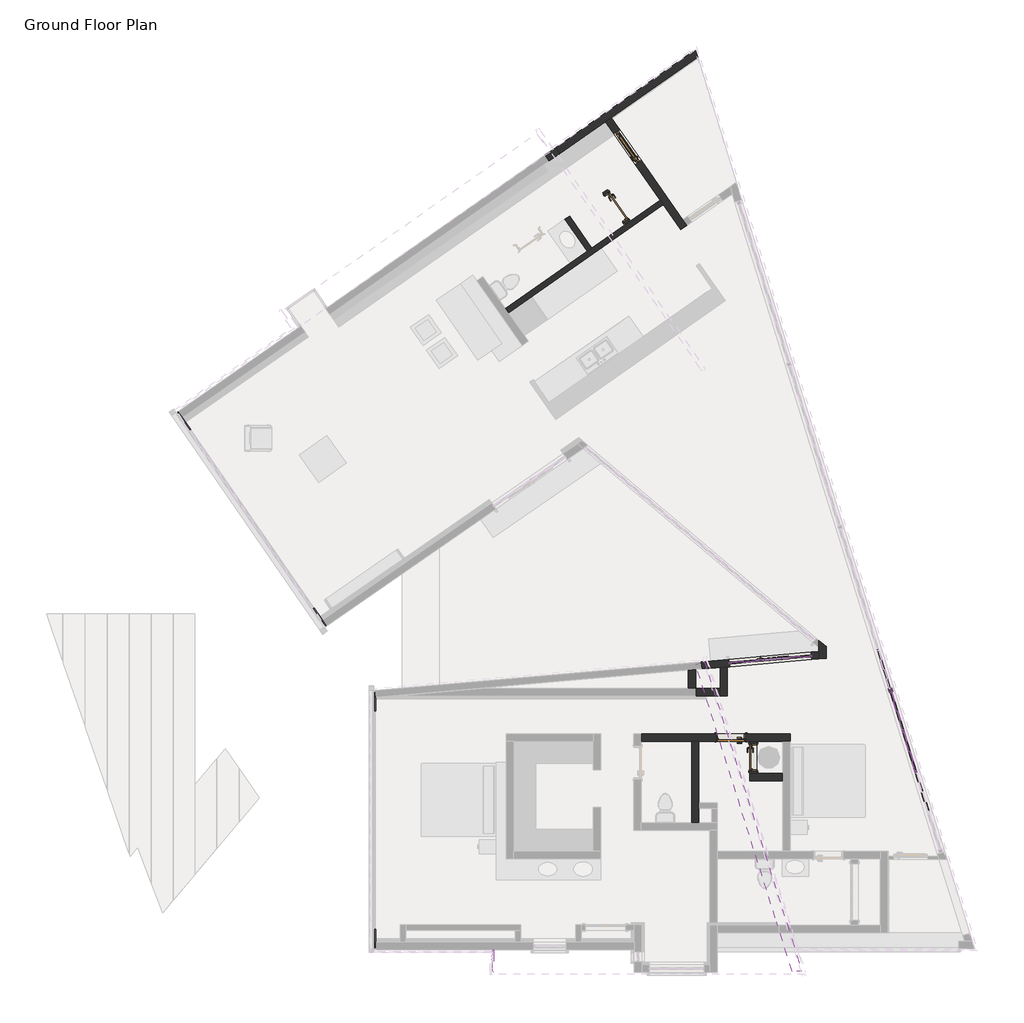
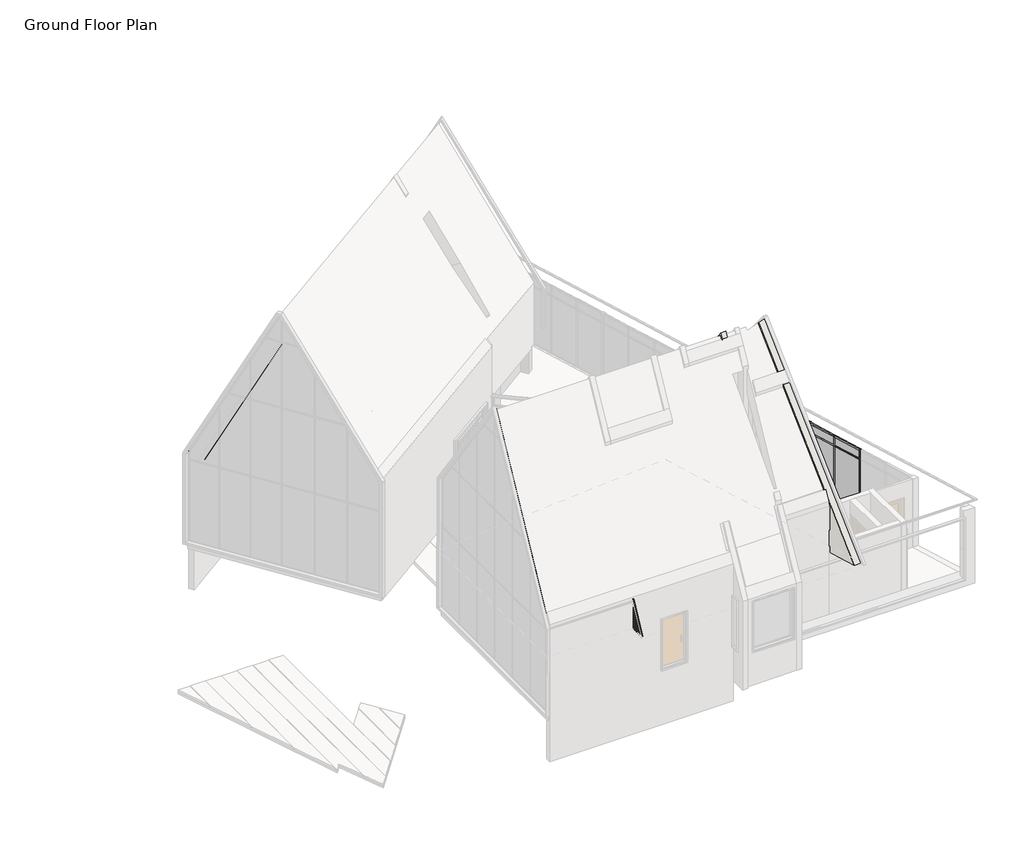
# One storey, part 3 of 5: 33 members, 17 walls, 12 plates, 5 doors.
"""IFC4 building model written with IfcOpenShell, lengths in millimetres."""

from ifc_helpers import new_model, si_unit, frame, origin, place, context, project, spatial, polyline, outline, extrude, faceted_brep, transform, mapped, element, save
from components import door_750mm_wide_door_e546be3d, doors_intsgl_750mm_7c3ae30e, doors_intsgl_810x2110mm_e568eb51, doors_intsgl_910x2110mm_8bc69504, m_door_curtain_wall_single_glass_m_door_curtain_wall_single_c3f88e89, rectangular_mullion_50x150mm_d6dec429, rectangular_mullion_50x150mm_72788f02, rectangular_mullion_50x150mm_baa92764, rectangular_mullion_50x150mm_42de14cf, rectangular_mullion_50x150mm_a37308e9, rectangular_mullion_50x150mm_01eea1bb, rectangular_mullion_50x150mm_2a97b9df, rectangular_mullion_50x150mm_ea022c74, rectangular_mullion_50x150mm_58209b6d, rectangular_mullion_50x150mm_e022757b, rectangular_mullion_50x150mm_c4750289, rectangular_mullion_50x150mm_8a00ccf8, rectangular_mullion_50x150mm_a8f8c755, rectangular_mullion_50x150mm_bbfc3f09, rectangular_mullion_50x150mm_005697f4, rectangular_mullion_50x150mm_f9c068ff, rectangular_mullion_50x150mm_facade_da269e3a, rectangular_mullion_50x150mm_facade_010fe28e, curtain_panel_curtain_panel_dfcd8e99, curtain_panel1_curtain_panel_2af1ea26, system_panel_glazed_c5d443fe, system_panel_glazed_77f98377, system_panel_glazed_fb9e9887, system_panel_glazed_1f7e3502, system_panel_glazed_3_e0a3ef8b, system_panel_glazed_3_5270101a, system_panel_glazed_3_bc7211fb, system_panel_opaque_e4a811f1, system_panel_opaque_66f26a5c, wall_wall_63b974ed, walls_1_walls_1_007ceb3c

model = new_model("IFC4")

# Units and contexts
model_context = context("Model", 3, world=origin())
ifc_project = project(units=[si_unit("LENGTHUNIT", "METRE", prefix="MILLI")], contexts=[model_context])

# Site, building, storey
site = spatial("IfcSite", under=ifc_project)
building = spatial("IfcBuilding", under=site)
storey = spatial("IfcBuildingStorey", under=building, Name="Ground Floor Plan", Elevation=0.0)

# Doors
placement = place(None, origin())
door_750mm_wide_door_shape = door_750mm_wide_door_e546be3d(model_context)
element("IfcDoor", 1, ObjectType="Doors_GEALAN_S9000_Front-Door : 750mm wide door", at=placement, inside=storey, context=model_context, shape_type="MappedRepresentation", body=[
    mapped(door_750mm_wide_door_shape, transform((-749.949294, 17445.1438074, 150.0), x_axis=(0.573576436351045, -0.8191520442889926, 0.0), y_axis=(0.8191520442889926, 0.573576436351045, 0.0), z_axis=(0.0, 0.0, 1.0))),
])
doors_intsgl_750mm_shape = doors_intsgl_750mm_7c3ae30e(model_context)
element("IfcDoor", 2, ObjectType="Doors_IntSgl : 750mm", at=placement, inside=storey, context=model_context, shape_type="MappedRepresentation", body=[
    mapped(doors_intsgl_750mm_shape, transform((2665.0455326, 877.8022092, 142.0), x_axis=(0.0, -1.0, 0.0), y_axis=(1.0, 0.0, 0.0), z_axis=(0.0, 0.0, 1.0))),
])
doors_intsgl_810x2110mm_shape = doors_intsgl_810x2110mm_e568eb51(model_context)
element("IfcDoor", 3, ObjectType="Doors_IntSgl : 810x2110mm", at=placement, inside=storey, context=model_context, shape_type="MappedRepresentation", body=[
    mapped(doors_intsgl_810x2110mm_shape, transform((2060.0455326, 1417.8022092, 142.0), x_axis=(-1.0, 0.0, 0.0), y_axis=(0.0, -1.0, 0.0), z_axis=(0.0, 0.0, 1.0))),
])
doors_intsgl_910x2110mm_shape = doors_intsgl_910x2110mm_8bc69504(model_context)
element("IfcDoor", 4, ObjectType="Doors_IntSgl : 910x2110mm", at=placement, inside=storey, context=model_context, shape_type="MappedRepresentation", body=[
    mapped(doors_intsgl_910x2110mm_shape, transform((-1050.6456876, 15815.2098093, -8.0), x_axis=(0.5735764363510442, -0.8191520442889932, 0.0), y_axis=(0.8191520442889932, 0.5735764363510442, 0.0), z_axis=(0.0, 0.0, 1.0))),
])
m_door_curtain_wall_single_glass_m_door_curtain_wall_single_shape = m_door_curtain_wall_single_glass_m_door_curtain_wall_single_c3f88e89(model_context)
element("IfcDoor", 5, ObjectType="M_Door-Curtain-Wall-Single-Glass : M_Door-Curtain-Wall-Single-Glass", at=placement, inside=storey, context=model_context, shape_type="MappedRepresentation", body=[
    mapped(m_door_curtain_wall_single_glass_m_door_curtain_wall_single_shape, transform((3203.2070319, 3542.8486092, 200.0), x_axis=(0.9961946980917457, 0.08715574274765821, 0.0), y_axis=(-0.08715574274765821, 0.9961946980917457, 0.0), z_axis=(0.0, 0.0, 1.0))),
])

# Members
rectangular_mullion_50x150mm_shape = rectangular_mullion_50x150mm_d6dec429(model_context)
element("IfcMember", 6, ObjectType="Rectangular Mullion : 50x150mm", at=placement, inside=storey, context=model_context, shape_type="MappedRepresentation", body=[
    mapped(rectangular_mullion_50x150mm_shape, transform((7083.8137074, 461.4647051, 150.0), x_axis=(0.0, 0.0, -1.0), y_axis=(-0.9549692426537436, -0.29670481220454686, 0.0), z_axis=(-0.29670481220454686, 0.9549692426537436, 0.0))),
])
element("IfcMember", 7, ObjectType="Rectangular Mullion : 50x150mm", at=placement, inside=storey, context=model_context, shape_type="MappedRepresentation", body=[
    mapped(rectangular_mullion_50x150mm_shape, transform((6740.0951484, 1567.7516222, 150.0), x_axis=(0.0, 0.0, -1.0), y_axis=(-0.9549692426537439, -0.2967048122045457, 0.0), z_axis=(-0.2967048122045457, 0.9549692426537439, 0.0))),
])
rectangular_mullion_50x150mm_2_shape = rectangular_mullion_50x150mm_72788f02(model_context)
element("IfcMember", 8, ObjectType="Rectangular Mullion : 50x150mm", at=placement, inside=storey, context=model_context, shape_type="MappedRepresentation", body=[
    mapped(rectangular_mullion_50x150mm_2_shape, transform((7076.3960871, 485.3389361, 150.0), x_axis=(0.2967048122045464, -0.9549692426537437, 0.0), y_axis=(-0.9549692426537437, -0.2967048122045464, 0.0), z_axis=(0.0, 0.0, -1.0))),
])
element("IfcMember", 9, ObjectType="Rectangular Mullion : 50x150mm", at=placement, inside=storey, context=model_context, shape_type="MappedRepresentation", body=[
    mapped(rectangular_mullion_50x150mm_2_shape, transform((6045.24041, 3804.1996876, 150.0), x_axis=(0.2967048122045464, -0.9549692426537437, 0.0), y_axis=(-0.9549692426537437, -0.2967048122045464, 0.0), z_axis=(0.0, 0.0, -1.0))),
])
element("IfcMember", 10, ObjectType="Rectangular Mullion : 50x150mm", at=placement, inside=storey, context=model_context, shape_type="MappedRepresentation", body=[
    mapped(rectangular_mullion_50x150mm_2_shape, transform((6732.6775281, 1591.6258533, 150.0), x_axis=(0.2967048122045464, -0.9549692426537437, 0.0), y_axis=(-0.9549692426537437, -0.2967048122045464, 0.0), z_axis=(0.0, 0.0, -1.0))),
])
rectangular_mullion_50x150mm_3_shape = rectangular_mullion_50x150mm_baa92764(model_context)
element("IfcMember", 11, ObjectType="Rectangular Mullion : 50x150mm", at=placement, inside=storey, context=model_context, shape_type="MappedRepresentation", body=[
    mapped(rectangular_mullion_50x150mm_3_shape, transform((2064.224427, 3443.2005433, 150.0), x_axis=(0.0, 0.0, -1.0), y_axis=(0.0871557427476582, -0.9961946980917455, 0.0), z_axis=(-0.9961946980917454, -0.08715574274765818, 0.0))),
])
rectangular_mullion_50x150mm_4_shape = rectangular_mullion_50x150mm_42de14cf(model_context)
element("IfcMember", 12, ObjectType="Rectangular Mullion : 50x150mm", at=placement, inside=storey, context=model_context, shape_type="MappedRepresentation", body=[
    mapped(rectangular_mullion_50x150mm_4_shape, transform((3673.0788645, 3583.9570678, 150.0), x_axis=(0.0, 0.0, -1.0), y_axis=(0.08715574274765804, -0.9961946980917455, 0.0), z_axis=(-0.9961946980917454, -0.08715574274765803, 0.0))),
])
rectangular_mullion_50x150mm_5_shape = rectangular_mullion_50x150mm_a37308e9(model_context)
element("IfcMember", 13, ObjectType="Rectangular Mullion : 50x150mm", at=placement, inside=storey, context=model_context, shape_type="MappedRepresentation", body=[
    mapped(rectangular_mullion_50x150mm_5_shape, transform((2783.1449342, 3506.0979377, 150.0), x_axis=(0.0, 0.0, -1.0), y_axis=(0.08715574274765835, -0.9961946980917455, 0.0), z_axis=(-0.9961946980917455, -0.08715574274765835, 0.0))),
])
rectangular_mullion_50x150mm_6_shape = rectangular_mullion_50x150mm_01eea1bb(model_context)
element("IfcMember", 14, ObjectType="Rectangular Mullion : 50x150mm", at=placement, inside=storey, context=model_context, shape_type="MappedRepresentation", body=[
    mapped(rectangular_mullion_50x150mm_6_shape, transform((3648.173997, 3581.7781743, 150.0), x_axis=(0.9961946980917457, 0.08715574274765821, 0.0), y_axis=(0.08715574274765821, -0.9961946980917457, 0.0), z_axis=(0.0, 0.0, -1.0))),
])
element("IfcMember", 15, ObjectType="Rectangular Mullion : 50x150mm", at=placement, inside=storey, context=model_context, shape_type="MappedRepresentation", body=[
    mapped(rectangular_mullion_50x150mm_6_shape, transform((2758.2400667, 3503.9190441, 150.0), x_axis=(0.9961946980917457, 0.08715574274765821, 0.0), y_axis=(0.08715574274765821, -0.9961946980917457, 0.0), z_axis=(0.0, 0.0, -1.0))),
])
rectangular_mullion_50x150mm_7_shape = rectangular_mullion_50x150mm_2a97b9df(model_context)
element("IfcMember", 16, ObjectType="Rectangular Mullion : 50x150mm", at=placement, inside=storey, context=model_context, shape_type="MappedRepresentation", body=[
    mapped(rectangular_mullion_50x150mm_7_shape, transform((4245.8908159, 3634.0716199, 150.0), x_axis=(0.9961946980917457, 0.08715574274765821, 0.0), y_axis=(0.08715574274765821, -0.9961946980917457, 0.0), z_axis=(0.0, 0.0, -1.0))),
])
element("IfcMember", 17, ObjectType="Rectangular Mullion : 50x150mm", at=placement, inside=storey, context=model_context, shape_type="MappedRepresentation", body=[
    mapped(rectangular_mullion_50x150mm_7_shape, transform((2014.4146921, 3438.8427562, 2351.0), x_axis=(-0.9961946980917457, -0.08715574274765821, 0.0), y_axis=(0.08715574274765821, -0.9961946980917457, 0.0), z_axis=(0.0, 0.0, 1.0))),
])
rectangular_mullion_50x150mm_8_shape = rectangular_mullion_50x150mm_ea022c74(model_context)
element("IfcMember", 18, ObjectType="Rectangular Mullion : 50x150mm", at=placement, inside=storey, context=model_context, shape_type="MappedRepresentation", body=[
    mapped(rectangular_mullion_50x150mm_8_shape, transform((6403.7942097, 2650.1643083, 150.0), x_axis=(0.0, 0.0, -1.0), y_axis=(-0.9549692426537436, -0.29670481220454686, 0.0), z_axis=(-0.29670481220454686, 0.9549692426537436, 0.0))),
])
element("IfcMember", 19, ObjectType="Rectangular Mullion : 50x150mm", at=placement, inside=storey, context=model_context, shape_type="MappedRepresentation", body=[
    mapped(rectangular_mullion_50x150mm_8_shape, transform((6374.1237285, 2745.6612326, 2900.0), x_axis=(0.0, 0.0, 1.0), y_axis=(-0.9549692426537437, -0.29670481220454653, 0.0), z_axis=(0.29670481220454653, -0.9549692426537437, 0.0))),
])
element("IfcMember", 20, ObjectType="Rectangular Mullion : 50x150mm", at=placement, inside=storey, context=model_context, shape_type="MappedRepresentation", body=[
    mapped(rectangular_mullion_50x150mm_shape, transform((7068.9784668, 509.2131672, 2900.0), x_axis=(0.0, 0.0, 1.0), y_axis=(-0.9549692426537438, -0.29670481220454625, 0.0), z_axis=(0.2967048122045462, -0.9549692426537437, 0.0))),
])
element("IfcMember", 21, ObjectType="Rectangular Mullion : 50x150mm", at=placement, inside=storey, context=model_context, shape_type="MappedRepresentation", body=[
    mapped(rectangular_mullion_50x150mm_8_shape, transform((6725.2599078, 1615.5000844, 2900.0), x_axis=(0.0, 0.0, 1.0), y_axis=(-0.9549692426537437, -0.29670481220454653, 0.0), z_axis=(0.29670481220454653, -0.9549692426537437, 0.0))),
])
rectangular_mullion_50x150mm_9_shape = rectangular_mullion_50x150mm_58209b6d(model_context)
element("IfcMember", 22, ObjectType="Rectangular Mullion : 50x150mm", at=placement, inside=storey, context=model_context, shape_type="MappedRepresentation", body=[
    mapped(rectangular_mullion_50x150mm_9_shape, transform((7076.3960871, 485.3389361, 2500.0), x_axis=(0.2967048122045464, -0.9549692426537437, 0.0), y_axis=(-0.9549692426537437, -0.2967048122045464, 0.0), z_axis=(0.0, 0.0, -1.0))),
])
element("IfcMember", 23, ObjectType="Rectangular Mullion : 50x150mm", at=placement, inside=storey, context=model_context, shape_type="MappedRepresentation", body=[
    mapped(rectangular_mullion_50x150mm_9_shape, transform((6732.6775281, 1591.6258533, 2500.0), x_axis=(0.2967048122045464, -0.9549692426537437, 0.0), y_axis=(-0.9549692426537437, -0.2967048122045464, 0.0), z_axis=(0.0, 0.0, -1.0))),
])
rectangular_mullion_50x150mm_10_shape = rectangular_mullion_50x150mm_e022757b(model_context)
element("IfcMember", 24, ObjectType="Rectangular Mullion : 50x150mm", at=placement, inside=storey, context=model_context, shape_type="MappedRepresentation", body=[
    mapped(rectangular_mullion_50x150mm_10_shape, transform((7068.9784668, 509.2131672, 2500.0), x_axis=(0.0, 0.0, 1.0), y_axis=(-0.9549692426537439, -0.2967048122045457, 0.0), z_axis=(0.2967048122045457, -0.9549692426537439, 0.0))),
])
rectangular_mullion_50x150mm_11_shape = rectangular_mullion_50x150mm_c4750289(model_context)
element("IfcMember", 25, ObjectType="Rectangular Mullion : 50x150mm", at=placement, inside=storey, context=model_context, shape_type="MappedRepresentation", body=[
    mapped(rectangular_mullion_50x150mm_11_shape, transform((6374.1237285, 2745.6612326, 2500.0), x_axis=(0.0, 0.0, 1.0), y_axis=(-0.9549692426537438, -0.29670481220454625, 0.0), z_axis=(0.2967048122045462, -0.9549692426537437, 0.0))),
])
element("IfcMember", 26, ObjectType="Rectangular Mullion : 50x150mm", at=placement, inside=storey, context=model_context, shape_type="MappedRepresentation", body=[
    mapped(rectangular_mullion_50x150mm_11_shape, transform((6725.2599078, 1615.5000844, 2500.0), x_axis=(0.0, 0.0, 1.0), y_axis=(-0.9549692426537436, -0.29670481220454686, 0.0), z_axis=(0.29670481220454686, -0.9549692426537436, 0.0))),
])
rectangular_mullion_50x150mm_12_shape = rectangular_mullion_50x150mm_8a00ccf8(model_context)
element("IfcMember", 27, ObjectType="Rectangular Mullion : 50x150mm", at=placement, inside=storey, context=model_context, shape_type="MappedRepresentation", body=[
    mapped(rectangular_mullion_50x150mm_12_shape, transform((3623.2691296, 3579.5992807, 2351.0), x_axis=(0.0, 0.0, 1.0), y_axis=(0.0871557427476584, -0.9961946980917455, 0.0), z_axis=(0.9961946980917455, 0.0871557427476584, 0.0))),
])
rectangular_mullion_50x150mm_13_shape = rectangular_mullion_50x150mm_a8f8c755(model_context)
element("IfcMember", 28, ObjectType="Rectangular Mullion : 50x150mm", at=placement, inside=storey, context=model_context, shape_type="MappedRepresentation", body=[
    mapped(rectangular_mullion_50x150mm_13_shape, transform((4196.081081, 3629.7138328, 2351.0), x_axis=(0.0, 0.0, 1.0), y_axis=(0.08715574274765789, -0.9961946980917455, 0.0), z_axis=(0.9961946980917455, 0.08715574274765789, 0.0))),
])
rectangular_mullion_50x150mm_14_shape = rectangular_mullion_50x150mm_bbfc3f09(model_context)
element("IfcMember", 29, ObjectType="Rectangular Mullion : 50x150mm", at=placement, inside=storey, context=model_context, shape_type="MappedRepresentation", body=[
    mapped(rectangular_mullion_50x150mm_14_shape, transform((2733.3351993, 3501.7401505, 2351.0), x_axis=(0.0, 0.0, 1.0), y_axis=(0.0871557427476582, -0.9961946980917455, 0.0), z_axis=(0.9961946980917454, 0.08715574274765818, 0.0))),
])
rectangular_mullion_50x150mm_15_shape = rectangular_mullion_50x150mm_005697f4(model_context)
element("IfcMember", 30, ObjectType="Rectangular Mullion : 50x150mm", at=placement, inside=storey, context=model_context, shape_type="MappedRepresentation", body=[
    mapped(rectangular_mullion_50x150mm_15_shape, transform((3648.173997, 3581.7781743, 2351.0), x_axis=(0.9961946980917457, 0.08715574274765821, 0.0), y_axis=(0.08715574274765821, -0.9961946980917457, 0.0), z_axis=(0.0, 0.0, -1.0))),
])
element("IfcMember", 31, ObjectType="Rectangular Mullion : 50x150mm", at=placement, inside=storey, context=model_context, shape_type="MappedRepresentation", body=[
    mapped(rectangular_mullion_50x150mm_15_shape, transform((2758.2400667, 3503.9190441, 2351.0), x_axis=(0.9961946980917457, 0.08715574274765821, 0.0), y_axis=(0.08715574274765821, -0.9961946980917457, 0.0), z_axis=(0.0, 0.0, -1.0))),
])
element("IfcMember", 32, ObjectType="Rectangular Mullion : 50x150mm", at=placement, inside=storey, context=model_context, shape_type="MappedRepresentation", body=[
    mapped(rectangular_mullion_50x150mm_3_shape, transform((2733.3351993, 3501.7401505, 2900.0), x_axis=(0.0, 0.0, 1.0), y_axis=(0.0871557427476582, -0.9961946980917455, 0.0), z_axis=(0.9961946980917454, 0.08715574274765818, 0.0))),
])
element("IfcMember", 33, ObjectType="Rectangular Mullion : 50x150mm", at=placement, inside=storey, context=model_context, shape_type="MappedRepresentation", body=[
    mapped(rectangular_mullion_50x150mm_5_shape, transform((3623.2691296, 3579.5992807, 2900.0), x_axis=(0.0, 0.0, 1.0), y_axis=(0.0871557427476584, -0.9961946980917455, 0.0), z_axis=(0.9961946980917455, 0.0871557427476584, 0.0))),
])
element("IfcMember", 34, ObjectType="Rectangular Mullion : 50x150mm", at=placement, inside=storey, context=model_context, shape_type="MappedRepresentation", body=[
    mapped(rectangular_mullion_50x150mm_4_shape, transform((4196.081081, 3629.7138328, 2900.0), x_axis=(0.0, 0.0, 1.0), y_axis=(0.08715574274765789, -0.9961946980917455, 0.0), z_axis=(0.9961946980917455, 0.08715574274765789, 0.0))),
])
rectangular_mullion_50x150mm_16_shape = rectangular_mullion_50x150mm_f9c068ff(model_context)
element("IfcMember", 35, ObjectType="Rectangular Mullion : 50x150mm", at=placement, inside=storey, context=model_context, shape_type="MappedRepresentation", body=[
    mapped(rectangular_mullion_50x150mm_16_shape, transform((2014.4146921, 3438.8427562, 2900.0), x_axis=(-0.9961946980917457, -0.08715574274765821, 0.0), y_axis=(0.08715574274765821, -0.9961946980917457, 0.0), z_axis=(0.0, 0.0, 1.0))),
])
element("IfcMember", 36, ObjectType="Rectangular Mullion : 50x150mm", at=placement, inside=storey, context=model_context, shape_type="MappedRepresentation", body=[
    mapped(rectangular_mullion_50x150mm_16_shape, transform((4245.8908159, 3634.0716199, 2351.0), x_axis=(0.9961946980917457, 0.08715574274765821, 0.0), y_axis=(0.08715574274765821, -0.9961946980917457, 0.0), z_axis=(0.0, 0.0, -1.0))),
])
rectangular_mullion_50x150mm_facade_shape = rectangular_mullion_50x150mm_facade_da269e3a(model_context)
element("IfcMember", 37, ObjectType="Rectangular Mullion : 50x150mm Facade", at=placement, inside=storey, context=model_context, shape_type="MappedRepresentation", body=[
    mapped(rectangular_mullion_50x150mm_facade_shape, transform((6388.9589691, 2697.9127705, 150.0), x_axis=(0.2967048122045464, -0.9549692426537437, 0.0), y_axis=(-0.9549692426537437, -0.2967048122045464, 0.0), z_axis=(0.0, 0.0, -1.0))),
])
rectangular_mullion_50x150mm_facade_2_shape = rectangular_mullion_50x150mm_facade_010fe28e(model_context)
element("IfcMember", 38, ObjectType="Rectangular Mullion : 50x150mm Facade", at=placement, inside=storey, context=model_context, shape_type="MappedRepresentation", body=[
    mapped(rectangular_mullion_50x150mm_facade_2_shape, transform((6388.9589691, 2697.9127705, 2500.0), x_axis=(0.2967048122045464, -0.9549692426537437, 0.0), y_axis=(-0.9549692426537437, -0.2967048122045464, 0.0), z_axis=(0.0, 0.0, -1.0))),
])

# Plates
curtain_panel_curtain_panel_shape = curtain_panel_curtain_panel_dfcd8e99(model_context)
element("IfcPlate", 39, ObjectType="Curtain Panel : Curtain Panel", at=placement, inside=storey, context=model_context, shape_type="MappedRepresentation", body=[
    mapped(curtain_panel_curtain_panel_shape, transform((0.0, 0.0, 0.0), x_axis=(1.0, 0.0, 0.0), y_axis=(0.0, 1.0, 0.0), z_axis=(0.0, 0.0, 1.0))),
])
curtain_panel1_curtain_panel_shape = curtain_panel1_curtain_panel_2af1ea26(model_context)
element("IfcPlate", 40, ObjectType="Curtain Panel1 : Curtain Panel", at=placement, inside=storey, context=model_context, shape_type="MappedRepresentation", body=[
    mapped(curtain_panel1_curtain_panel_shape, transform((0.0, 0.0, 0.0), x_axis=(1.0, 0.0, 0.0), y_axis=(0.0, 1.0, 0.0), z_axis=(0.0, 0.0, 1.0))),
])
system_panel_glazed_shape = system_panel_glazed_c5d443fe(model_context)
element("IfcPlate", 41, ObjectType="System Panel : Glazed", at=placement, inside=storey, context=model_context, shape_type="MappedRepresentation", body=[
    mapped(system_panel_glazed_shape, transform((6564.5270587, 2132.8321963, 200.0), x_axis=(0.2967048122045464, -0.9549692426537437, 0.0), y_axis=(0.9549692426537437, 0.2967048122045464, 0.0), z_axis=(0.0, 0.0, 1.0))),
])
element("IfcPlate", 42, ObjectType="System Panel : Glazed", at=placement, inside=storey, context=model_context, shape_type="MappedRepresentation", body=[
    mapped(system_panel_glazed_shape, transform((6213.3908794, 3262.9933446, 200.0), x_axis=(0.2967048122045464, -0.9549692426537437, 0.0), y_axis=(0.9549692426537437, 0.2967048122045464, 0.0), z_axis=(0.0, 0.0, 1.0))),
])
system_panel_glazed_2_shape = system_panel_glazed_77f98377(model_context)
element("IfcPlate", 43, ObjectType="System Panel : Glazed", at=placement, inside=storey, context=model_context, shape_type="MappedRepresentation", body=[
    mapped(system_panel_glazed_2_shape, transform((6904.5368076, 1038.4823947, 200.0), x_axis=(0.2967048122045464, -0.9549692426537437, 0.0), y_axis=(0.9549692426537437, 0.2967048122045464, 0.0), z_axis=(0.0, 0.0, 1.0))),
])
system_panel_glazed_3_shape = system_panel_glazed_fb9e9887(model_context)
element("IfcPlate", 44, ObjectType="System Panel : Glazed", at=placement, inside=storey, context=model_context, shape_type="MappedRepresentation", body=[
    mapped(system_panel_glazed_3_shape, transform((2398.7798132, 3472.4703469, 200.0), x_axis=(0.9961946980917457, 0.08715574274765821, 0.0), y_axis=(-0.08715574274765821, 0.9961946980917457, 0.0), z_axis=(0.0, 0.0, 1.0))),
])
system_panel_glazed_4_shape = system_panel_glazed_1f7e3502(model_context)
element("IfcPlate", 45, ObjectType="System Panel : Glazed", at=placement, inside=storey, context=model_context, shape_type="MappedRepresentation", body=[
    mapped(system_panel_glazed_4_shape, transform((3934.5799727, 3606.8354503, 200.0), x_axis=(0.9961946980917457, 0.08715574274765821, 0.0), y_axis=(-0.08715574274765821, 0.9961946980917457, 0.0), z_axis=(0.0, 0.0, 1.0))),
])
system_panel_glazed_3_2_shape = system_panel_glazed_3_e0a3ef8b(model_context)
element("IfcPlate", 46, ObjectType="System Panel : Glazed 3", at=placement, inside=storey, context=model_context, shape_type="MappedRepresentation", body=[
    mapped(system_panel_glazed_3_2_shape, transform((2398.7798132, 3472.4703469, 2376.0), x_axis=(0.9961946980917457, 0.08715574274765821, 0.0), y_axis=(-0.08715574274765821, 0.9961946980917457, 0.0), z_axis=(0.0, 0.0, 1.0))),
])
system_panel_glazed_3_3_shape = system_panel_glazed_3_5270101a(model_context)
element("IfcPlate", 47, ObjectType="System Panel : Glazed 3", at=placement, inside=storey, context=model_context, shape_type="MappedRepresentation", body=[
    mapped(system_panel_glazed_3_3_shape, transform((3934.5799727, 3606.8354503, 2376.0), x_axis=(0.9961946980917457, 0.08715574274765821, 0.0), y_axis=(-0.08715574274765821, 0.9961946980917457, 0.0), z_axis=(0.0, 0.0, 1.0))),
])
system_panel_glazed_3_4_shape = system_panel_glazed_3_bc7211fb(model_context)
element("IfcPlate", 48, ObjectType="System Panel : Glazed 3", at=placement, inside=storey, context=model_context, shape_type="MappedRepresentation", body=[
    mapped(system_panel_glazed_3_4_shape, transform((3203.2070319, 3542.8486092, 2376.0), x_axis=(0.9961946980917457, 0.08715574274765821, 0.0), y_axis=(-0.08715574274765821, 0.9961946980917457, 0.0), z_axis=(0.0, 0.0, 1.0))),
])
system_panel_opaque_shape = system_panel_opaque_e4a811f1(model_context)
element("IfcPlate", 49, ObjectType="System Panel : Opaque", at=placement, inside=storey, context=model_context, shape_type="MappedRepresentation", body=[
    mapped(system_panel_opaque_shape, transform((6904.5368076, 1038.4823947, 2525.0), x_axis=(0.2967048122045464, -0.9549692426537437, 0.0), y_axis=(0.9549692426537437, 0.2967048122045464, 0.0), z_axis=(0.0, 0.0, 1.0))),
])
system_panel_opaque_2_shape = system_panel_opaque_66f26a5c(model_context)
element("IfcPlate", 50, ObjectType="System Panel : Opaque", at=placement, inside=storey, context=model_context, shape_type="MappedRepresentation", body=[
    mapped(system_panel_opaque_2_shape, transform((6564.5270587, 2132.8321963, 2525.0), x_axis=(0.2967048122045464, -0.9549692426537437, 0.0), y_axis=(0.9549692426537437, 0.2967048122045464, 0.0), z_axis=(0.0, 0.0, 1.0))),
])

# Walls
element("IfcWall", 51, ObjectType="DEFAULT lesser width", at=placement, inside=storey, context=model_context, shape_type="Brep", body=[
    faceted_brep([(-3976.0414966, 12936.1167605, 0.0), (225.3333805, 15877.9511202, 0.0), (225.3333805, 15877.9511202, 2900.0), (-1150.9361258, 14914.2768373, 2900.0), (-1150.9361258, 14914.2768373, 2636.1330697), (-1314.7701996, 14799.5589838, 2636.1330697), (-1314.7701996, 14799.5589838, 9495.9380012), (-3976.0414966, 12936.1167605, 9538.1973702), (139.2969151, 16000.8239269, 0.0), (-684.940261, 15423.6868429, 0.0), (-807.8130677, 15337.6503775, 0.0), (-1324.2387654, 14976.045211, 0.0), (-1447.1143208, 14890.0068208, 0.0), (-1717.0497011, 14700.9960327, 0.0), (-1839.9252565, 14614.9576426, 0.0), (-4062.077962, 13058.9895671, 0.0), (-4062.077962, 13058.9895671, 9246.8904168), (-1839.9252565, 14614.9576426, 9211.6039839), (-1717.0497011, 14700.9960327, 9209.6527948), (-1447.1143208, 14890.0068208, 9205.3663852), (-1399.9847801, 14923.0072805, 9204.6179968), (-1399.9847801, 14923.0072805, 2636.1330697), (-1236.1507063, 15037.725134, 2636.1330697), (-1236.1507063, 15037.725134, 2900.0), (-807.8130677, 15337.6503775, 2900.0), (-684.940261, 15423.6868429, 2900.0), (139.2969151, 16000.8239269, 2900.0)], [[[0, 1, 2, 3, 4, 5, 6, 7]], [[8, 9, 10, 11, 12, 13, 14, 15, 16, 17, 18, 19, 20, 21, 22, 23, 24, 25, 26]], [[1, 0, 15, 14, 13, 12, 11, 10, 9, 8]], [[0, 7, 16, 15]], [[5, 21, 20, 6]], [[22, 4, 3, 23]], [[21, 5, 4, 22]], [[2, 1, 8, 26]], [[16, 7, 6, 20, 19, 18, 17]], [[3, 2, 26, 25, 24, 23]]]),
])
element("IfcWall", 52, ObjectType="DEFAULT lesser width", at=placement, inside=storey, context=model_context, shape_type="Brep", body=[
    faceted_brep([(-2442.6500901, 15488.1104962, 0.0), (-1839.9252565, 14614.9576426, 0.0), (-1839.9252565, 14614.9576426, 9211.6039839), (-2442.6500901, 15488.1104962, 7151.0903925), (-2319.7745348, 15574.1488864, 0.0), (-2319.7745348, 15574.1488864, 7149.1392035), (-1717.0497011, 14700.9960327, 9209.6527948), (-1717.0497011, 14700.9960327, 0.0)], [[[0, 1, 2, 3]], [[4, 5, 6, 7]], [[1, 0, 4, 7]], [[0, 3, 5, 4]], [[2, 1, 7, 6]], [[3, 2, 6, 5]]]),
])
element("IfcWall", 53, ObjectType="DEFAULT lesser width", at=placement, inside=storey, context=model_context, shape_type="SweptSolid", body=[
    extrude(outline(polyline([(1160.9537072, 0.0), (1160.9537072, -2900.0), (100.0, -2900.0), (100.0, 0.0), (175.4768536, 0.0), (175.4768536, -2102.0), (1085.4768536, -2102.0), (1085.4768536, 0.0), (1160.9537072, 0.0)])), frame((-1473.7087578, 16288.6479801, 0.0), z_axis=(0.8191520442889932, 0.5735764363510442, 0.0), x_axis=(0.5735764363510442, -0.8191520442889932, 0.0)), (0.0, 0.0, 1.0), 150.0),
])
element("IfcWall", 54, ObjectType="DEFAULT", at=placement, inside=storey, context=model_context, shape_type="Brep", body=[
    faceted_brep([(1262.9981344, 3272.720342, 0.0), (1765.0455326, 3316.6437979, 0.0), (1965.0455326, 3334.1415306, 0.0), (4439.7682518, 3550.6517139, 0.0), (4439.7682518, 3550.6517139, 2900.0), (4254.6063901, 3534.4521501, 2900.0), (4254.6063901, 3534.4521501, 150.0), (2023.1302664, 3339.2232864, 150.0), (2023.1302664, 3339.2232864, 2900.0), (1965.0455326, 3334.1415306, 2900.0), (1765.0455326, 3316.6437979, 2900.0), (1403.9834926, 3285.0549626, 2900.0), (1262.9981344, 3272.720342, 2900.0), (4439.7682518, 3751.4156814, 0.0), (1245.5669859, 3471.9592816, 0.0), (1245.5669859, 3471.9592816, 2900.0), (1342.6622584, 3480.4540173, 2900.0), (2005.6991179, 3538.462226, 2900.0), (2005.6991179, 3538.462226, 150.0), (4237.1752416, 3733.6910897, 150.0), (4237.1752416, 3733.6910897, 2900.0), (4439.7682518, 3751.4156814, 2900.0)], [[[0, 1, 2, 3, 4, 5, 6, 7, 8, 9, 10, 11, 12]], [[13, 14, 15, 16, 17, 18, 19, 20, 21]], [[3, 2, 1, 0, 14, 13]], [[0, 12, 15, 14]], [[15, 12, 11, 16]], [[4, 3, 13, 21]], [[4, 21, 20, 5]], [[16, 11, 10, 9, 8, 17]], [[7, 18, 17, 8]], [[18, 7, 6, 19]], [[19, 6, 5, 20]]]),
])
element("IfcWall", 55, ObjectType="DEFAULT", at=placement, inside=storey, context=model_context, shape_type="Brep", body=[
    faceted_brep([(1765.0455326, 3316.6437979, 0.0), (1765.0455326, 2750.1490812, 0.0), (1765.0455326, 2550.1490812, 0.0), (1765.0455326, 2550.1490812, 2900.0), (1765.0455326, 2750.1490812, 2900.0), (1765.0455326, 3316.6437979, 2900.0), (1965.0455326, 3334.1415306, 0.0), (1965.0455326, 3334.1415306, 2900.0), (1965.0455326, 2550.1490812, 2900.0), (1965.0455326, 2550.1490812, 0.0)], [[[0, 1, 2, 3, 4, 5]], [[6, 7, 8, 9]], [[2, 1, 0, 6, 9]], [[5, 4, 3, 8, 7]], [[3, 2, 9, 8]], [[0, 5, 7, 6]]]),
])
element("IfcWall", 56, ObjectType="DEFAULT", at=placement, inside=storey, context=model_context, shape_type="Brep", body=[
    faceted_brep([(908.3180922, 3241.6898592, 0.0), (908.3180922, 2750.1490812, 0.0), (908.3180922, 2750.1490812, 5531.7922181), (908.3180922, 3241.6898592, 4844.3084583), (1108.3180922, 3259.1875919, 0.0), (1108.3180922, 3259.1875919, 4819.8356015), (1108.3180922, 2750.1490812, 5531.7922181), (1108.3180922, 2750.1490812, 0.0)], [[[0, 1, 2, 3]], [[4, 5, 6, 7]], [[1, 0, 4, 7]], [[3, 2, 6, 5]], [[2, 1, 7, 6]], [[0, 3, 5, 4]]]),
])
element("IfcWall", 57, ObjectType="DEFAULT", at=placement, inside=storey, context=model_context, shape_type="Brep", body=[
    faceted_brep([(4439.7682518, 4052.4059066, 0.0), (4439.7682518, 3856.0375311, 0.0), (4439.7682518, 3751.4156814, 0.0), (4439.7682518, 3550.6517139, 0.0), (4439.7682518, 3550.6517139, 2900.0), (4439.7682518, 3751.4156814, 2900.0), (4439.7682518, 3851.4944117, 2900.0), (4439.7682518, 3856.0375311, 2900.0), (4439.7682518, 4052.4059066, 2900.0), (4639.7682518, 3883.4323314, 0.0), (4639.7682518, 3883.4323314, 2900.0), (4639.7682518, 3568.1494466, 2900.0), (4639.7682518, 3568.1494466, 0.0)], [[[0, 1, 2, 3, 4, 5, 6, 7, 8]], [[9, 10, 11, 12]], [[3, 2, 1, 0, 9, 12]], [[0, 8, 10, 9]], [[4, 3, 12, 11]], [[8, 7, 6, 5, 4, 11, 10]]]),
])
element("IfcWall", 58, ObjectType="DEFAULT", at=placement, inside=storey, context=model_context, shape_type="Brep", body=[
    faceted_brep([(1108.3180922, 2550.1490812, 0.0), (1765.0455326, 2550.1490812, 0.0), (1765.0455326, 2550.1490812, 2900.0), (1634.6158045, 2550.1490812, 2900.0), (1108.3180922, 2550.1490812, 2900.0), (1108.3180922, 2750.1490812, 0.0), (1108.3180922, 2750.1490812, 2900.0), (1571.8506756, 2750.1490812, 2900.0), (1765.0455326, 2750.1490812, 2900.0), (1765.0455326, 2750.1490812, 0.0)], [[[0, 1, 2, 3, 4]], [[5, 6, 7, 8, 9]], [[1, 0, 5, 9]], [[2, 1, 9, 8]], [[0, 4, 6, 5]], [[4, 3, 7, 6]], [[3, 2, 8, 7]]]),
])
element("IfcWall", 59, ObjectType="DEFAULT", at=placement, inside=storey, context=model_context, shape_type="Brep", body=[
    faceted_brep([(-2581.1084798, 17267.7533447, -493.5378128), (1154.254342, 19883.2825504, -493.5378128), (1154.254342, 19883.2825504, 2600.0), (1154.254342, 19883.2825504, 2900.0), (982.2445034, 19762.8399648, 2900.0), (-1187.1207644, 18243.8340511, 2900.0), (-1350.9511733, 18129.1187638, 2900.0), (-2581.1084798, 17267.7533447, 2900.0), (-2581.1084798, 17267.7533447, -424.4301837), (-2695.823767, 17431.5837535, -493.5378128), (-2695.823767, 17431.5837535, -424.4301837), (-2695.823767, 17431.5837535, 2900.0), (1091.9507108, 20083.8119959, 2900.0), (1091.9507108, 20083.811996, -493.5378128)], [[[0, 1, 2, 3, 4, 5, 6, 7, 8]], [[9, 10, 11, 12, 13]], [[1, 0, 9, 13]], [[0, 8, 7, 11, 10, 9]], [[7, 6, 5, 4, 3, 12, 11]], [[3, 2, 1, 13, 12]]]),
])
element("IfcWall", 60, ObjectType="DEFAULT", at=placement, inside=storey, context=model_context, shape_type="Brep", body=[
    faceted_brep([(-2880.0989759, 17058.3979454, -424.4301837), (-2581.1084798, 17267.7533447, -424.4301837), (-2581.1084798, 17267.7533447, 2900.0), (-2581.1084798, 17267.7533447, 3150.0), (-2880.0989759, 17058.3979454, 3150.0), (-2994.8142632, 17222.2283543, -424.4301837), (-2994.8142632, 17222.2283543, 3150.0), (-2695.823767, 17431.5837535, 3150.0), (-2695.823767, 17431.5837535, 2900.0), (-2695.823767, 17431.5837535, -424.4301837)], [[[0, 1, 2, 3, 4]], [[5, 6, 7, 8, 9]], [[1, 0, 5, 9]], [[3, 2, 1, 9, 8, 7]], [[4, 3, 7, 6]], [[0, 4, 6, 5]]]),
])
element("IfcWall", 61, ObjectType="DEFAULT", at=placement, inside=storey, context=model_context, shape_type="Brep", body=[
    faceted_brep([(-371.2135347, 1317.8022092, 0.0), (990.6584713, 1317.8022092, 0.0), (1190.6584713, 1317.8022092, 0.0), (2565.0455326, 1317.8022092, 0.0), (2765.0455326, 1317.8022092, 0.0), (3468.7864653, 1317.8022092, 0.0), (3668.7864653, 1317.8022092, 0.0), (3668.7864653, 1317.8022092, 2900.0), (3468.7864653, 1317.8022092, 2900.0), (2765.0455326, 1317.8022092, 2900.0), (2565.0455326, 1317.8022092, 2900.0), (2021.3578558, 1317.8022092, 2900.0), (2021.3578558, 1317.8022092, 7535.1157612), (1190.6584713, 1317.8022092, 7535.1157612), (990.6584713, 1317.8022092, 7535.1157612), (-371.2135347, 1317.8022092, 7535.1157612), (1655.0455326, 1317.8022092, 150.0), (1655.0455326, 1317.8022092, 2252.0), (2465.0455326, 1317.8022092, 2252.0), (2465.0455326, 1317.8022092, 150.0), (3668.7864653, 1517.8022092, 0.0), (-371.2135347, 1517.8022092, 0.0), (-371.2135347, 1517.8022092, 7255.389728), (1958.5927269, 1517.8022092, 7255.389728), (1958.5927269, 1517.8022092, 2900.0), (3668.7864653, 1517.8022092, 2900.0), (1655.0455326, 1517.8022092, 2252.0), (1655.0455326, 1517.8022092, 150.0), (2465.0455326, 1517.8022092, 150.0), (2465.0455326, 1517.8022092, 2252.0)], [[[0, 1, 2, 3, 4, 5, 6, 7, 8, 9, 10, 11, 12, 13, 14, 15], [16, 17, 18, 19]], [[20, 21, 22, 23, 24, 25], [26, 27, 28, 29]], [[6, 5, 4, 3, 2, 1, 0, 21, 20]], [[0, 15, 22, 21]], [[7, 6, 20, 25]], [[16, 27, 26, 17]], [[17, 26, 29, 18]], [[18, 29, 28, 19]], [[27, 16, 19, 28]], [[15, 14, 13, 12, 23, 22]], [[12, 11, 24, 23]], [[11, 10, 9, 8, 7, 25, 24]]]),
])
element("IfcWall", 62, ObjectType="DEFAULT", at=placement, inside=storey, context=model_context, shape_type="Brep", body=[
    faceted_brep([(3468.7864653, 437.8022092, 0.0), (2765.0455326, 437.8022092, 0.0), (2565.0455326, 437.8022092, 0.0), (2565.0455326, 437.8022092, 2900.0), (2765.0455326, 437.8022092, 2900.0), (3468.7864653, 437.8022092, 2900.0), (3468.7864653, 237.8022092, 0.0), (3468.7864653, 237.8022092, 2900.0), (2565.0455326, 237.8022092, 2900.0), (2565.0455326, 237.8022092, 0.0)], [[[0, 1, 2, 3, 4, 5]], [[6, 7, 8, 9]], [[2, 1, 0, 6, 9]], [[0, 5, 7, 6]], [[3, 2, 9, 8]], [[5, 4, 3, 8, 7]]]),
])
element("IfcWall", 63, ObjectType="DEFAULT", at=placement, inside=storey, context=model_context, shape_type="SweptSolid", body=[
    extrude(outline(polyline([(1317.8022092, 0.0), (437.8022092, 0.0), (437.8022092, 2900.0), (1317.8022092, 2900.0), (1317.8022092, 0.0)]), holes=[polyline([(502.8022092, 2252.0), (502.8022092, 150.0), (1252.8022092, 150.0), (1252.8022092, 2252.0), (502.8022092, 2252.0)])]), frame((2565.0455326, 0.0, 0.0), z_axis=(1.0, 0.0, 0.0), x_axis=(0.0, 1.0, 0.0)), (0.0, 0.0, 1.0), 200.0),
])
element("IfcWall", 64, ObjectType="DEFAULT", at=placement, inside=storey, context=model_context, shape_type="Brep", body=[
    faceted_brep([(990.6584713, 1317.8022092, 0.0), (990.6584713, -902.1977908, 0.0), (990.6584713, -902.1977908, 10312.086412), (990.6584713, -802.0464193, 10500.0), (990.6584713, 1317.8022092, 7535.1157612), (1190.6584713, 1317.8022092, 0.0), (1190.6584713, 1317.8022092, 7535.1157612), (1190.6584713, -361.9389803, 9884.4524597), (1190.6584713, -511.9389803, 10094.2469845), (1190.6584713, -802.0464193, 10500.0), (1190.6584713, -902.1977908, 10312.086412), (1190.6584713, -902.1977908, 0.0), (1190.6584713, -511.9389803, 0.0), (1190.6584713, -361.9389803, 0.0)], [[[0, 1, 2, 3, 4]], [[5, 6, 7, 8, 9, 10, 11, 12, 13]], [[1, 0, 5, 13, 12, 11]], [[0, 4, 6, 5]], [[2, 1, 11, 10]], [[4, 3, 9, 8, 7, 6]], [[3, 2, 10, 9]]]),
])
element("IfcWall", 65, ObjectType="DEFAULT 7", at=placement, inside=storey, context=model_context, shape_type="Brep", body=[
    faceted_brep([(-1350.9511733, 18129.1187638, 0.0), (139.2969151, 16000.8239269, 0.0), (225.3333805, 15877.9511202, 0.0), (699.7566523, 15200.4044703, 0.0), (699.7566523, 15200.4044703, 2900.0), (225.3333805, 15877.9511202, 2900.0), (139.2969151, 16000.8239269, 2900.0), (-1350.9511733, 18129.1187638, 2900.0), (-539.3405159, 16970.0186212, 2260.0), (-539.3405159, 16970.0186212, 150.0), (-1124.3884809, 17805.5537063, 150.0), (-1124.3884809, 17805.5537063, 2260.0), (864.3543812, 15314.0239109, 0.0), (749.6365277, 15477.8579848, 0.0), (-1187.1207644, 18243.8340511, 0.0), (-1187.1207644, 18243.8340511, 2900.0), (749.6365277, 15477.8579848, 2900.0), (864.3543812, 15314.0239109, 2900.0), (-375.510107, 17084.7339084, 150.0), (-375.510107, 17084.7339084, 2260.0), (-960.5580721, 17920.2689936, 2260.0), (-960.5580721, 17920.2689936, 150.0)], [[[0, 1, 2, 3, 4, 5, 6, 7], [8, 9, 10, 11]], [[12, 13, 14, 15, 16, 17], [18, 19, 20, 21]], [[3, 2, 1, 0, 14, 13, 12]], [[7, 6, 5, 4, 17, 16, 15]], [[4, 3, 12, 17]], [[0, 7, 15, 14]], [[18, 9, 8, 19]], [[19, 8, 11, 20]], [[20, 11, 10, 21]], [[9, 18, 21, 10]]]),
])
wall_wall_shape = wall_wall_63b974ed(model_context)
element("IfcWall", 66, ObjectType="Wall : Wall", at=placement, inside=storey, context=model_context, shape_type="MappedRepresentation", body=[
    mapped(wall_wall_shape, transform((0.0, 0.0, 0.0), x_axis=(1.0, 0.0, 0.0), y_axis=(0.0, 1.0, 0.0), z_axis=(0.0, 0.0, 1.0))),
])
walls_1_walls_1_shape = walls_1_walls_1_007ceb3c(model_context)
element("IfcWall", 67, ObjectType="Walls 1 : Walls 1", at=placement, inside=storey, context=model_context, shape_type="MappedRepresentation", body=[
    mapped(walls_1_walls_1_shape, transform((0.0, 0.0, 0.0), x_axis=(1.0, 0.0, 0.0), y_axis=(0.0, 1.0, 0.0), z_axis=(0.0, 0.0, 1.0))),
])

save(model, "model.ifc")
